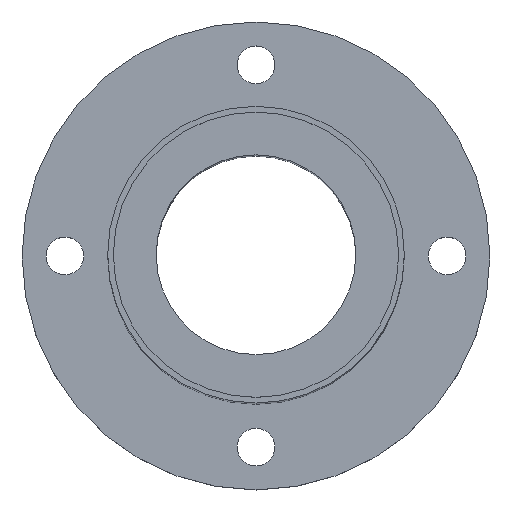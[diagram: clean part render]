
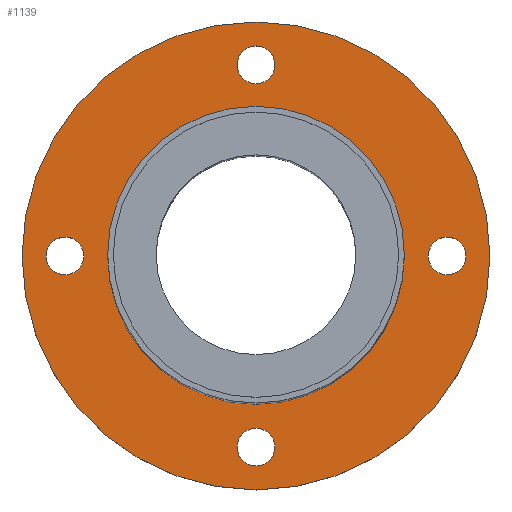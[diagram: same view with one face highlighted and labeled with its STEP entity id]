
A CAD part, top view. The second image highlights one B-rep face of the part: STEP entity #1139.
In plain terms, the highlighted planar face has unit normal (0, 0, 1).
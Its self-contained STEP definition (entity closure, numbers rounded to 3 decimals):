
#51=CARTESIAN_POINT('',(-41.,-0.1,10.0));
#52=VERTEX_POINT('',#51);
#68=CARTESIAN_POINT('',(41.,-0.1,10.0));
#69=VERTEX_POINT('',#68);
#76=CARTESIAN_POINT('',(0.0,-0.1,10.0));
#77=DIRECTION('',(0.0,0.0,-1.0));
#78=DIRECTION('',(-1.0,0.0,0.0));
#79=AXIS2_PLACEMENT_3D('',#76,#77,#78);
#80=CIRCLE('',#79,41.);
#81=EDGE_CURVE('',#69,#52,#80,.T.);
#133=CARTESIAN_POINT('',(-26.0,-0.1,10.0));
#134=VERTEX_POINT('',#133);
#143=CARTESIAN_POINT('',(26.0,-0.1,10.0));
#144=VERTEX_POINT('',#143);
#145=CARTESIAN_POINT('',(0.0,-0.1,10.0));
#146=DIRECTION('',(0.0,0.0,-1.0));
#147=DIRECTION('',(-1.0,0.0,0.0));
#148=AXIS2_PLACEMENT_3D('',#145,#146,#147);
#149=CIRCLE('',#148,26.0);
#150=EDGE_CURVE('',#144,#134,#149,.T.);
#345=CARTESIAN_POINT('',(0.0,30.1,10.0));
#346=VERTEX_POINT('',#345);
#362=CARTESIAN_POINT('',(0.,36.7,10.0));
#363=VERTEX_POINT('',#362);
#370=CARTESIAN_POINT('',(0.0,33.4,10.0));
#371=DIRECTION('',(0.0,0.0,-1.0));
#372=DIRECTION('',(0.0,-1.0,0.0));
#373=AXIS2_PLACEMENT_3D('',#370,#371,#372);
#374=CIRCLE('',#373,3.3);
#375=EDGE_CURVE('',#346,#363,#374,.T.);
#429=CARTESIAN_POINT('',(-30.2,-0.1,10.0));
#430=VERTEX_POINT('',#429);
#446=CARTESIAN_POINT('',(-36.8,-0.1,10.0));
#447=VERTEX_POINT('',#446);
#454=CARTESIAN_POINT('',(-33.5,-0.1,10.0));
#455=DIRECTION('',(0.0,0.0,-1.0));
#456=DIRECTION('',(1.0,0.0,0.0));
#457=AXIS2_PLACEMENT_3D('',#454,#455,#456);
#458=CIRCLE('',#457,3.3);
#459=EDGE_CURVE('',#430,#447,#458,.T.);
#513=CARTESIAN_POINT('',(0.,-30.3,10.0));
#514=VERTEX_POINT('',#513);
#530=CARTESIAN_POINT('',(0.,-36.9,10.0));
#531=VERTEX_POINT('',#530);
#538=CARTESIAN_POINT('',(0.,-33.6,10.0));
#539=DIRECTION('',(0.0,0.0,-1.0));
#540=DIRECTION('',(0.0,1.0,0.0));
#541=AXIS2_PLACEMENT_3D('',#538,#539,#540);
#542=CIRCLE('',#541,3.3);
#543=EDGE_CURVE('',#514,#531,#542,.T.);
#597=CARTESIAN_POINT('',(30.2,-0.1,10.0));
#598=VERTEX_POINT('',#597);
#614=CARTESIAN_POINT('',(36.8,-0.1,10.0));
#615=VERTEX_POINT('',#614);
#622=CARTESIAN_POINT('',(33.5,-0.1,10.0));
#623=DIRECTION('',(0.0,0.0,-1.0));
#624=DIRECTION('',(-1.0,0.0,0.0));
#625=AXIS2_PLACEMENT_3D('',#622,#623,#624);
#626=CIRCLE('',#625,3.3);
#627=EDGE_CURVE('',#598,#615,#626,.T.);
#638=CARTESIAN_POINT('',(33.5,-0.1,10.0));
#639=DIRECTION('',(0.0,0.0,-1.0));
#640=DIRECTION('',(-1.0,0.0,0.0));
#641=AXIS2_PLACEMENT_3D('',#638,#639,#640);
#642=CIRCLE('',#641,3.3);
#643=EDGE_CURVE('',#615,#598,#642,.T.);
#700=CARTESIAN_POINT('',(0.,-33.6,10.0));
#701=DIRECTION('',(0.0,0.0,-1.0));
#702=DIRECTION('',(0.0,1.0,0.0));
#703=AXIS2_PLACEMENT_3D('',#700,#701,#702);
#704=CIRCLE('',#703,3.3);
#705=EDGE_CURVE('',#531,#514,#704,.T.);
#762=CARTESIAN_POINT('',(-33.5,-0.1,10.0));
#763=DIRECTION('',(0.0,0.0,-1.0));
#764=DIRECTION('',(1.0,0.0,0.0));
#765=AXIS2_PLACEMENT_3D('',#762,#763,#764);
#766=CIRCLE('',#765,3.3);
#767=EDGE_CURVE('',#447,#430,#766,.T.);
#824=CARTESIAN_POINT('',(0.0,33.4,10.0));
#825=DIRECTION('',(0.0,0.0,-1.0));
#826=DIRECTION('',(0.0,-1.0,0.0));
#827=AXIS2_PLACEMENT_3D('',#824,#825,#826);
#828=CIRCLE('',#827,3.3);
#829=EDGE_CURVE('',#363,#346,#828,.T.);
#1056=CARTESIAN_POINT('',(0.0,-0.1,10.0));
#1057=DIRECTION('',(0.0,0.0,-1.0));
#1058=DIRECTION('',(-1.0,0.0,0.0));
#1059=AXIS2_PLACEMENT_3D('',#1056,#1057,#1058);
#1060=CIRCLE('',#1059,26.0);
#1061=EDGE_CURVE('',#134,#144,#1060,.T.);
#1098=CARTESIAN_POINT('',(0.0,-0.1,10.0));
#1099=DIRECTION('',(0.0,0.0,-1.0));
#1100=DIRECTION('',(-1.0,0.0,0.0));
#1101=AXIS2_PLACEMENT_3D('',#1098,#1099,#1100);
#1102=CIRCLE('',#1101,41.);
#1103=EDGE_CURVE('',#52,#69,#1102,.T.);
#1110=CARTESIAN_POINT('',(0.0,-0.1,10.0));
#1111=DIRECTION('',(0.0,0.0,-1.0));
#1112=DIRECTION('',(-1.0,0.0,0.0));
#1113=AXIS2_PLACEMENT_3D('',#1110,#1111,#1112);
#1114=PLANE('',#1113);
#1115=ORIENTED_EDGE('',*,*,#81,.F.);
#1116=ORIENTED_EDGE('',*,*,#1103,.F.);
#1117=EDGE_LOOP('',(#1115,#1116));
#1118=FACE_OUTER_BOUND('',#1117,.T.);
#1119=ORIENTED_EDGE('',*,*,#627,.T.);
#1120=ORIENTED_EDGE('',*,*,#643,.T.);
#1121=EDGE_LOOP('',(#1119,#1120));
#1122=FACE_BOUND('',#1121,.T.);
#1123=ORIENTED_EDGE('',*,*,#543,.T.);
#1124=ORIENTED_EDGE('',*,*,#705,.T.);
#1125=EDGE_LOOP('',(#1123,#1124));
#1126=FACE_BOUND('',#1125,.T.);
#1127=ORIENTED_EDGE('',*,*,#459,.T.);
#1128=ORIENTED_EDGE('',*,*,#767,.T.);
#1129=EDGE_LOOP('',(#1127,#1128));
#1130=FACE_BOUND('',#1129,.T.);
#1131=ORIENTED_EDGE('',*,*,#375,.T.);
#1132=ORIENTED_EDGE('',*,*,#829,.T.);
#1133=EDGE_LOOP('',(#1131,#1132));
#1134=FACE_BOUND('',#1133,.T.);
#1135=ORIENTED_EDGE('',*,*,#150,.T.);
#1136=ORIENTED_EDGE('',*,*,#1061,.T.);
#1137=EDGE_LOOP('',(#1135,#1136));
#1138=FACE_BOUND('',#1137,.T.);
#1139=ADVANCED_FACE('',(#1118,#1122,#1126,#1130,#1134,#1138),#1114,.F.);
